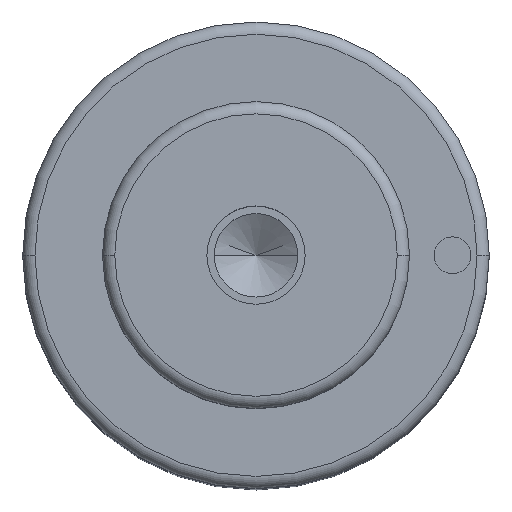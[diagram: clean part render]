
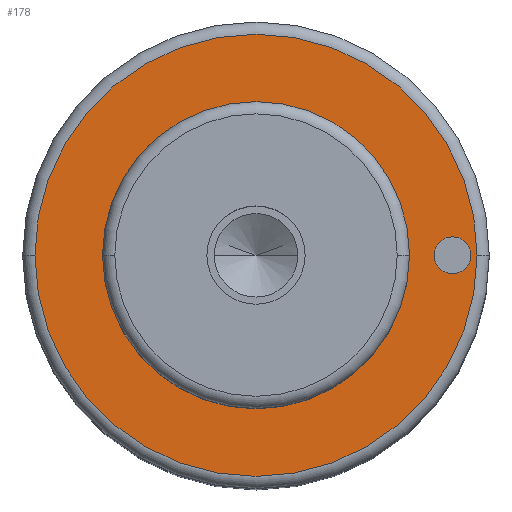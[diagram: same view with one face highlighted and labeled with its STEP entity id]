
A CAD part, top view. The second image highlights one B-rep face of the part: STEP entity #178.
In plain terms, the highlighted planar face has unit normal (0, 0, 1).
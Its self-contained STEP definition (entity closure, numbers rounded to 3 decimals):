
#105=PLANE('',#866);
#115=FACE_BOUND('',#283,.T.);
#116=FACE_BOUND('',#284,.T.);
#117=FACE_BOUND('',#285,.T.);
#178=ADVANCED_FACE('',(#115,#116,#117),#105,.T.);
#283=EDGE_LOOP('',(#473,#474));
#284=EDGE_LOOP('',(#475,#476));
#285=EDGE_LOOP('',(#477,#478));
#333=CIRCLE('',#834,12.5);
#334=CIRCLE('',#836,12.5);
#338=CIRCLE('',#841,18.);
#339=CIRCLE('',#843,18.);
#351=CIRCLE('',#864,1.5);
#352=CIRCLE('',#865,1.5);
#473=ORIENTED_EDGE('',*,*,#666,.F.);
#474=ORIENTED_EDGE('',*,*,#667,.F.);
#475=ORIENTED_EDGE('',*,*,#685,.F.);
#476=ORIENTED_EDGE('',*,*,#686,.F.);
#477=ORIENTED_EDGE('',*,*,#662,.T.);
#478=ORIENTED_EDGE('',*,*,#660,.T.);
#590=VERTEX_POINT('',#1233);
#591=VERTEX_POINT('',#1235);
#592=VERTEX_POINT('',#1241);
#595=VERTEX_POINT('',#1246);
#604=VERTEX_POINT('',#1285);
#605=VERTEX_POINT('',#1286);
#660=EDGE_CURVE('',#591,#590,#333,.T.);
#662=EDGE_CURVE('',#590,#591,#334,.T.);
#666=EDGE_CURVE('',#595,#592,#338,.T.);
#667=EDGE_CURVE('',#592,#595,#339,.T.);
#685=EDGE_CURVE('',#604,#605,#351,.T.);
#686=EDGE_CURVE('',#605,#604,#352,.T.);
#834=AXIS2_PLACEMENT_3D('',#1234,#985,#986);
#836=AXIS2_PLACEMENT_3D('',#1238,#990,#991);
#841=AXIS2_PLACEMENT_3D('',#1247,#1000,#1001);
#843=AXIS2_PLACEMENT_3D('',#1249,#1004,#1005);
#864=AXIS2_PLACEMENT_3D('',#1284,#1052,#1053);
#865=AXIS2_PLACEMENT_3D('',#1287,#1054,#1055);
#866=AXIS2_PLACEMENT_3D('',#1288,#1056,#1057);
#985=DIRECTION('',(0.,0.,-1.));
#986=DIRECTION('',(0.,1.,0.));
#990=DIRECTION('',(0.,0.,-1.));
#991=DIRECTION('',(0.,-1.,0.));
#1000=DIRECTION('',(0.,0.,-1.));
#1001=DIRECTION('',(0.,1.,0.));
#1004=DIRECTION('',(0.,0.,-1.));
#1005=DIRECTION('',(0.,-1.,0.));
#1052=DIRECTION('',(0.,0.,1.));
#1053=DIRECTION('',(0.,1.,0.));
#1054=DIRECTION('',(0.,0.,1.));
#1055=DIRECTION('',(0.,-1.,0.));
#1056=DIRECTION('',(0.,0.,1.));
#1057=DIRECTION('',(0.,-1.,0.));
#1233=CARTESIAN_POINT('',(-12.5,0.,63.));
#1234=CARTESIAN_POINT('',(0.,0.,63.));
#1235=CARTESIAN_POINT('',(12.5,0.,63.));
#1238=CARTESIAN_POINT('',(0.,0.,63.));
#1241=CARTESIAN_POINT('',(-18.,0.,63.));
#1246=CARTESIAN_POINT('',(18.,0.,63.));
#1247=CARTESIAN_POINT('',(0.,0.,63.));
#1249=CARTESIAN_POINT('',(0.,0.,63.));
#1284=CARTESIAN_POINT('',(16.,0.,63.));
#1285=CARTESIAN_POINT('',(14.5,0.,63.));
#1286=CARTESIAN_POINT('',(17.5,0.,63.));
#1287=CARTESIAN_POINT('',(16.,0.,63.));
#1288=CARTESIAN_POINT('',(0.,0.,63.));
